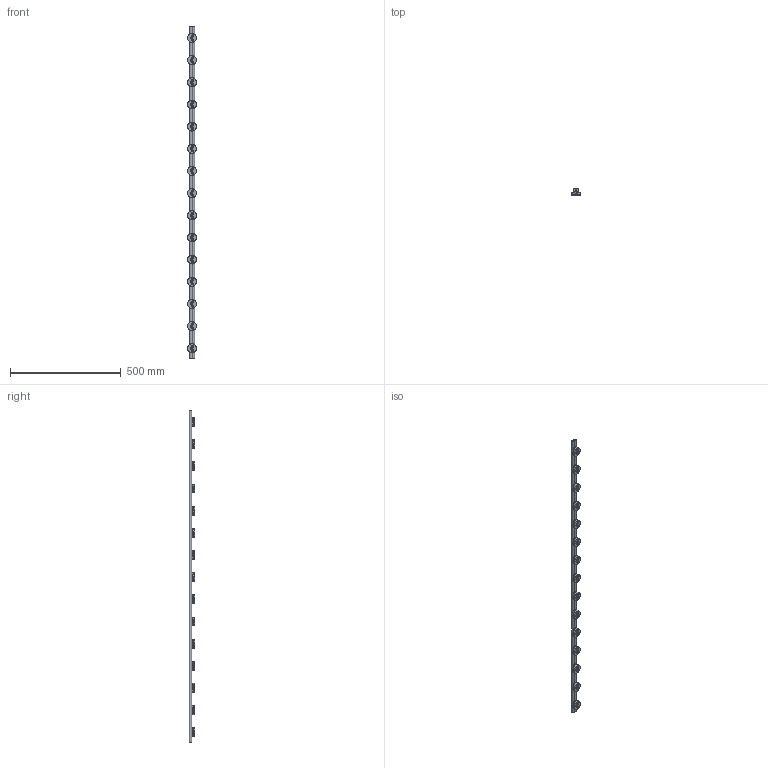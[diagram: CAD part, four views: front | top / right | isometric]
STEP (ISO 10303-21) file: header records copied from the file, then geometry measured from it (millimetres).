
FILE_DESCRIPTION (( 'STEP AP214' ), '1' );
FILE_NAME ('LF 1_-_LF 1 1498 mm lang.step', '2005-06-03T05:55:14', ( ' ' ), ( ' ' ), 'SwSTEP 2.0', 'SolidWorks 2004231', '' );
FILE_SCHEMA (( 'AUTOMOTIVE_DESIGN' ));
Length unit declared in the file: millimetre
Products named in the file (1): LF 1_-_LF 1  1498 mm lang
Bounding box: 40 x 27 x 1498 mm (x, y, z)
Volume: 543705.5 mm3; surface area: 189580 mm2
Topology: 1 solids, 1 shells, 1672 faces, 4140 edges, 2500 vertices
Faces by surface type: plane 784, cylinder 648, cone 150, torus 90
Entity records: 51066 total; most frequent: CARTESIAN_POINT 14084, ORIENTED_EDGE 7980, DIRECTION 7177, EDGE_CURVE 3990, AXIS2_PLACEMENT_3D 2549, VERTEX_POINT 2500, VECTOR 2079, LINE 2079
